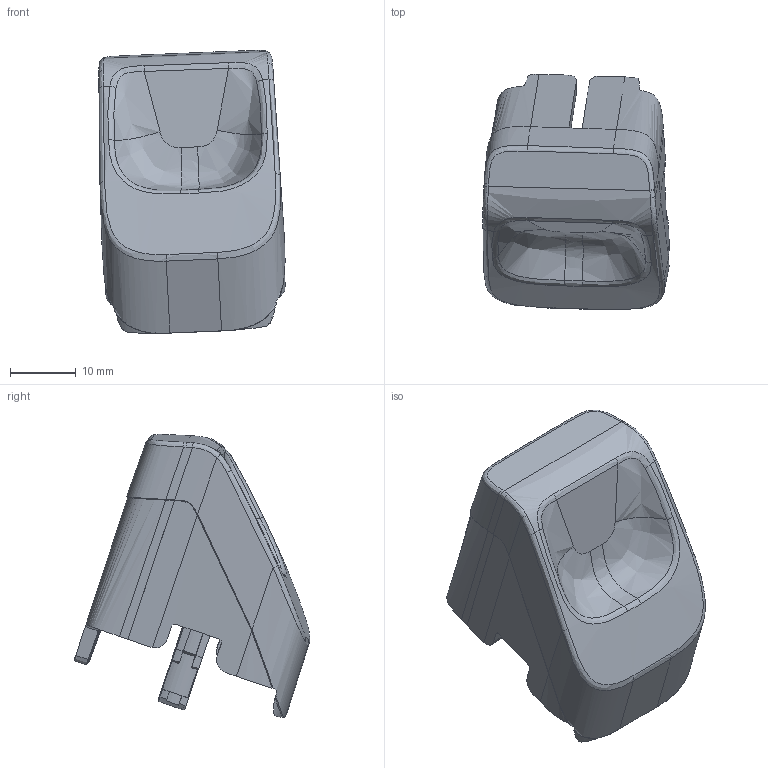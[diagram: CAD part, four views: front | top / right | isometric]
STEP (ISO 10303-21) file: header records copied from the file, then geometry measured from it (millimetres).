
FILE_DESCRIPTION(('CATIA V5 STEP Exchange'),'2;1');
FILE_NAME('F:\11-X3000\2.0平台提升\2.0外观提升\0807\0110\SHT0011969.stp','2021-01-12T05:55:29+00:00',('none'),('none'),'CATIA Version 5 Release 20 GA (IN-10)','CATIA V5 STEP AP203 Edition 2','none');
FILE_SCHEMA(('AP203_CONFIGURATION_CONTROLLED_3D_DESIGN_OF_MECHANICAL_PARTS_AND_ASSEMBLIES_MIM_LF { 1 0 10303 403 2 1 2}'));
Length unit declared in the file: millimetre
Products named in the file (1): 20210112
Bounding box: 28.34 x 35.89 x 43.08 mm (x, y, z)
Volume: 9448.6 mm3; surface area: 8011.4 mm2
Topology: 1 solids, 1 shells, 349 faces, 960 edges, 610 vertices
Faces by surface type: bspline 210, plane 77, cylinder 42, cone 14, sphere 4, torus 2
Entity records: 28266 total; most frequent: CARTESIAN_POINT 21849, ORIENTED_EDGE 1910, EDGE_CURVE 955, B_SPLINE_CURVE_WITH_KNOTS 773, VERTEX_POINT 608, ADVANCED_FACE 349, EDGE_LOOP 349, FACE_OUTER_BOUND 349
